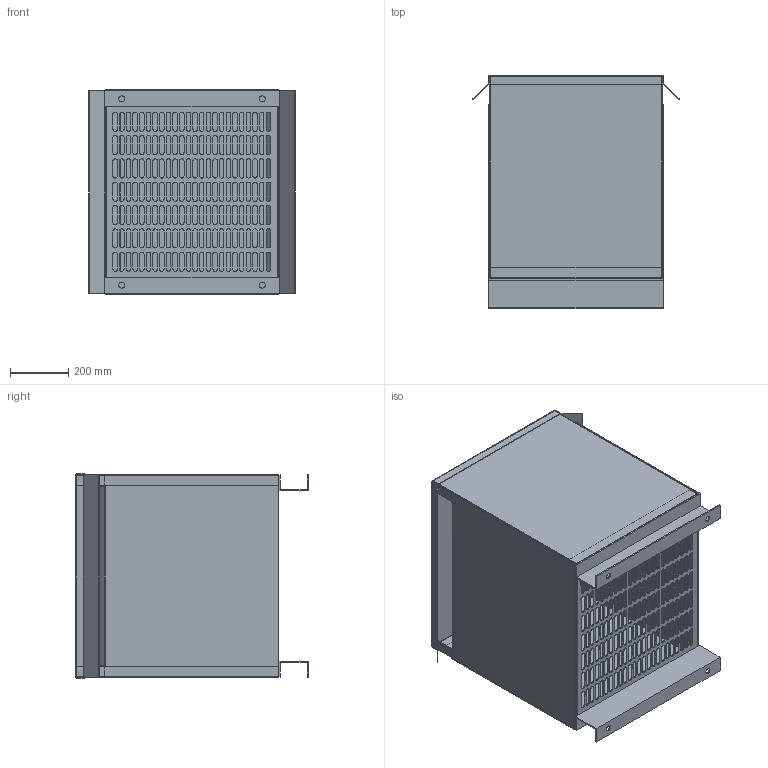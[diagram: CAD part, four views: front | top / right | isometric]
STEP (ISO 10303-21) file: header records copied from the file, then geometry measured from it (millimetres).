
FILE_DESCRIPTION (( 'STEP AP203' ), '1' );
FILE_NAME ('MT-DOE16-3P-480D-45KVA-575Y-N3R.STEP', '2024-10-07T20:06:48', ( '' ), ( '' ), 'SwSTEP 2.0', 'SolidWorks 2020', '' );
FILE_SCHEMA (( 'CONFIG_CONTROL_DESIGN' ));
Length unit declared in the file: inch
Products named in the file (6): Part 4; Part 3; Part 2; Part 1; Part 5; MT-DOE16-3P-480D-45KVA-575Y-N3R
Assembly tree (8 placements, depth 2):
  MT-DOE16-3P-480D-45KVA-575Y-N3R
    Part 1  x2
    Part 2  x2
    Part 3
    Part 4
    Part 5  x2
Bounding box: 706.88 x 800.1 x 700.02 mm (x, y, z)
Volume: 7452694.9 mm3; surface area: 6143751.1 mm2
Topology: 8 solids, 8 shells, 1048 faces, 2968 edges, 1936 vertices
Faces by surface type: cylinder 544, plane 488, bspline 16
Entity records: 34700 total; most frequent: CARTESIAN_POINT 6541, DIRECTION 5810, ORIENTED_EDGE 5672, EDGE_CURVE 2836, AXIS2_PLACEMENT_3D 2021, VERTEX_POINT 1856, VECTOR 1768, LINE 1768
